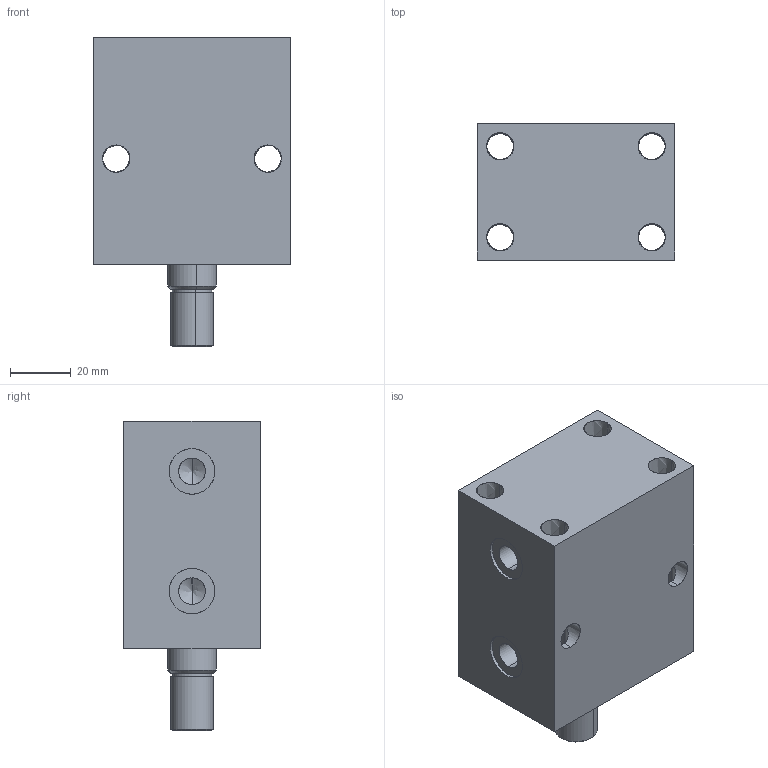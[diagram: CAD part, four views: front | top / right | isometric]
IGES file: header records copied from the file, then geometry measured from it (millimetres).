
Start section: SolidWorks IGES file using analytic representation for surfaces
Global section: file name: D:\karuppas\Clasp\3D model\Block cylinder B01C-Male thread - Copy\B01C-125M\block cylinder B01C-125M.IGS; native system: SolidWorks 2017; preprocessor: SolidWorks 2017; author: pc; date: 220709.232650; units: millimetre
Bounding box: 65 x 45 x 102 mm (x, y, z)
Surface area: 39069.5 mm2 (no closed solid volume)
Topology: 0 solids, 0 shells, 348 faces, 5273 edges, 5269 vertices
Faces by surface type: bspline 294, revolution 54
